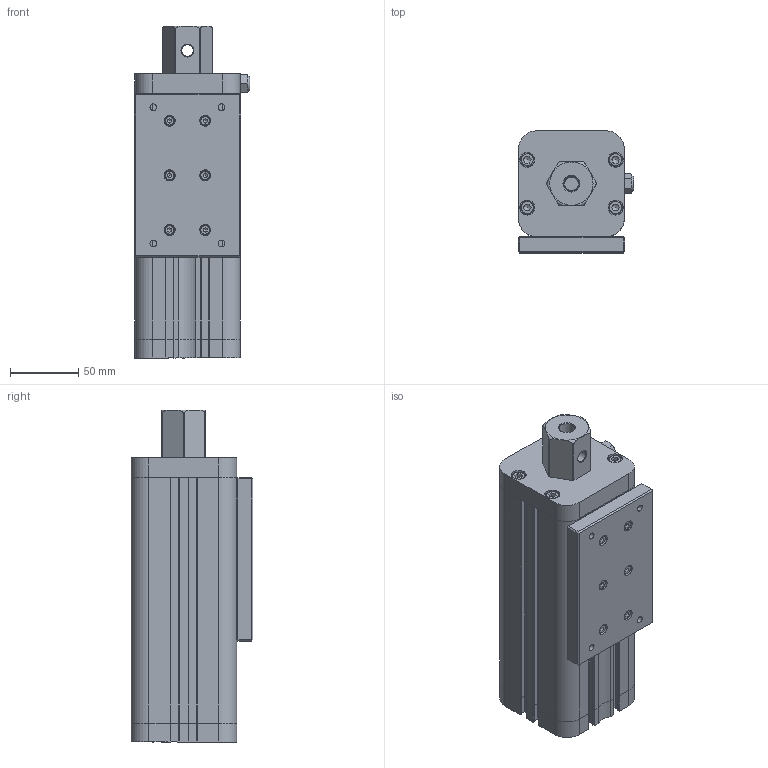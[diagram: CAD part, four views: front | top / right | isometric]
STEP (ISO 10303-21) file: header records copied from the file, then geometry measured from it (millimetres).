
FILE_DESCRIPTION(/* description */ ('Luft - Öl Druckölerzeuger Air - Oil Pressure Intensifier'),/* implementation_level */ '2;1');
FILE_NAME(/* name */ '1410.20.00.stp',/* time_stamp */ '2026-01-27T12:21:32+01:00',/* author */ ('HWalkhoff'),/* organization */ (''),/* preprocessor_version */ 'ST-DEVELOPER v20.1',/* originating_system */ 'Autodesk Inventor 2026',/* authorisation */ '');
FILE_SCHEMA (('AUTOMOTIVE_DESIGN { 1 0 10303 214 3 1 1 }'));
Length unit declared in the file: millimetre
Products named in the file (12): 1410.20.00; 1410.20.17; 1410.20.15; J-SD5-1/8-SB-S; 56,82 x 2,65  (140); 1410.20.21; 1410.20.26; 1410.20.22; DIN 912 - M4 x 12; DIN 7500 EE-M6 x 25; 1410.20.28; 63,0 x 1,0
Assembly tree (24 placements, depth 2):
  1410.20.00
    1410.20.17
    1410.20.15
    J-SD5-1/8-SB-S
    56,82 x 2,65  (140)
    1410.20.21
    1410.20.26
    1410.20.22
    DIN 912 - M4 x 12  x6
    DIN 7500 EE-M6 x 25  x8
    1410.20.28  x2
    63,0 x 1,0
Bounding box: 84.7 x 89.4 x 243.4 mm (x, y, z)
Volume: 604088.1 mm3; surface area: 271502.5 mm2
Topology: 24 solids, 24 shells, 709 faces, 1810 edges, 1193 vertices
Faces by surface type: plane 377, cylinder 248, cone 50, torus 32, bspline 2
Full cylindrical faces by diameter (mm): 3.242 x6, 4 x7, 4.5 x6, 4.917 x4, 5 x1, 5.5 x4, 6 x8, 6.5 x5, 6.6 x4, 6.647 x4, 7 x6, 8 x6, 8.5 x1, 8.566 x4, 9.73 x1, 10 x9, 10.4 x1, 10.5 x4, 11 x8, 11.445 x1, 20.5 x1, 26 x1, 28 x2, 30 x3, 33.3 x1, 37 x1, 45.4 x1, 52 x1, 58.4 x1, 58.6 x1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
Entity records: 17136 total; most frequent: CARTESIAN_POINT 3292, DIRECTION 2923, ORIENTED_EDGE 2682, EDGE_CURVE 1341, AXIS2_PLACEMENT_3D 1065, VERTEX_POINT 883, LINE 793, VECTOR 793
